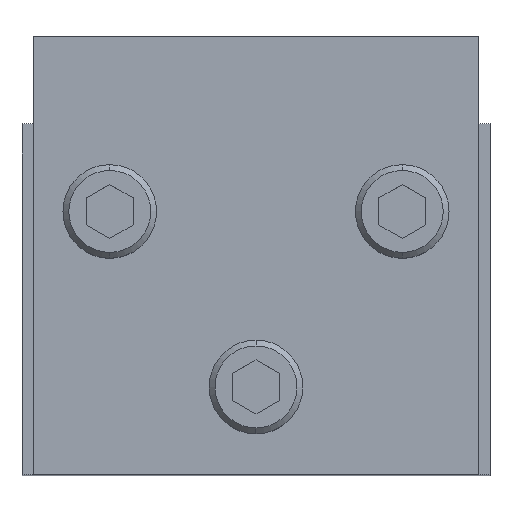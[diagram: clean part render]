
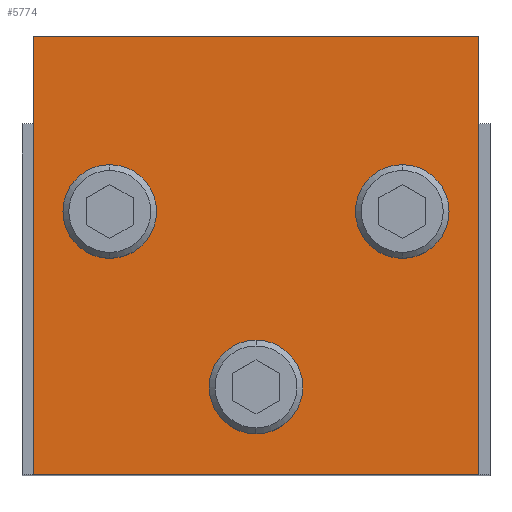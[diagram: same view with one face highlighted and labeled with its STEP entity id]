
A CAD part, top view. The second image highlights one B-rep face of the part: STEP entity #5774.
In plain terms, the highlighted planar face has unit normal (0, 0, 1).
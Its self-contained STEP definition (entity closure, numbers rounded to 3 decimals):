
#5549=VERTEX_POINT(' ',#5550);
#5550=CARTESIAN_POINT('',(38.,75.,110.));
#5551=VERTEX_POINT(' ',#5552);
#5552=CARTESIAN_POINT('',(-38.,75.,110.));
#5553=VERTEX_POINT(' ',#5554);
#5554=CARTESIAN_POINT('',(-38.,0.,110.));
#5555=VERTEX_POINT(' ',#5556);
#5556=CARTESIAN_POINT('',(38.,0.,110.));
#5557=VERTEX_POINT(' ',#5558);
#5558=CARTESIAN_POINT('',(0.,20.5,110.));
#5559=VERTEX_POINT(' ',#5560);
#5560=CARTESIAN_POINT('',(0.,9.5,110.));
#5561=VERTEX_POINT(' ',#5562);
#5562=CARTESIAN_POINT('',(-25.,50.5,110.));
#5563=VERTEX_POINT(' ',#5564);
#5564=CARTESIAN_POINT('',(-25.,39.5,110.));
#5565=VERTEX_POINT(' ',#5566);
#5566=CARTESIAN_POINT('',(25.,50.5,110.));
#5567=VERTEX_POINT(' ',#5568);
#5568=CARTESIAN_POINT('',(25.,39.5,110.));
#5589=LINE('',#5590,#5591);
#5590=CARTESIAN_POINT('',(38.,75.,110.));
#5591=VECTOR('',#5592,1.);
#5592=DIRECTION('',(-1.,0.,0.));
#5593=EDGE_CURVE(' ',#5549,#5551,#5589,.T.);
#5594=LINE('',#5595,#5596);
#5595=CARTESIAN_POINT('',(-38.,75.,110.));
#5596=VECTOR('',#5597,1.);
#5597=DIRECTION('',(0.,-1.,0.));
#5598=EDGE_CURVE(' ',#5551,#5553,#5594,.T.);
#5599=LINE('',#5600,#5601);
#5600=CARTESIAN_POINT('',(-38.,0.,110.));
#5601=VECTOR('',#5602,1.);
#5602=DIRECTION('',(1.,0.,0.));
#5603=EDGE_CURVE(' ',#5553,#5555,#5599,.T.);
#5604=LINE('',#5605,#5606);
#5605=CARTESIAN_POINT('',(38.,0.,110.));
#5606=VECTOR('',#5607,1.);
#5607=DIRECTION('',(0.,1.,0.));
#5608=EDGE_CURVE(' ',#5555,#5549,#5604,.T.);
#5609=CIRCLE('',#5610,5.5);
#5610=AXIS2_PLACEMENT_3D('',#5611,#5612,#5613);
#5611=CARTESIAN_POINT('',(0.,15.,110.));
#5612=DIRECTION('',(0.,0.,-1.));
#5613=DIRECTION('',(-1.,0.,0.));
#5614=EDGE_CURVE(' ',#5557,#5559,#5609,.T.);
#5615=CIRCLE('',#5616,5.5);
#5616=AXIS2_PLACEMENT_3D('',#5617,#5618,#5619);
#5617=CARTESIAN_POINT('',(0.,15.,110.));
#5618=DIRECTION('',(0.,0.,-1.));
#5619=DIRECTION('',(1.,0.,0.));
#5620=EDGE_CURVE(' ',#5559,#5557,#5615,.T.);
#5621=CIRCLE('',#5622,5.5);
#5622=AXIS2_PLACEMENT_3D('',#5623,#5624,#5625);
#5623=CARTESIAN_POINT('',(-25.,45.,110.));
#5624=DIRECTION('',(0.,0.,-1.));
#5625=DIRECTION('',(-1.,0.,0.));
#5626=EDGE_CURVE(' ',#5561,#5563,#5621,.T.);
#5627=CIRCLE('',#5628,5.5);
#5628=AXIS2_PLACEMENT_3D('',#5629,#5630,#5631);
#5629=CARTESIAN_POINT('',(-25.,45.,110.));
#5630=DIRECTION('',(0.,0.,-1.));
#5631=DIRECTION('',(1.,0.,0.));
#5632=EDGE_CURVE(' ',#5563,#5561,#5627,.T.);
#5633=CIRCLE('',#5634,5.5);
#5634=AXIS2_PLACEMENT_3D('',#5635,#5636,#5637);
#5635=CARTESIAN_POINT('',(25.,45.,110.));
#5636=DIRECTION('',(0.,0.,-1.));
#5637=DIRECTION('',(-1.,0.,0.));
#5638=EDGE_CURVE(' ',#5565,#5567,#5633,.T.);
#5639=CIRCLE('',#5640,5.5);
#5640=AXIS2_PLACEMENT_3D('',#5641,#5642,#5643);
#5641=CARTESIAN_POINT('',(25.,45.,110.));
#5642=DIRECTION('',(0.,0.,-1.));
#5643=DIRECTION('',(1.,0.,0.));
#5644=EDGE_CURVE(' ',#5567,#5565,#5639,.T.);
#5751=ORIENTED_EDGE('',*,*,#5593,.T.);
#5752=ORIENTED_EDGE('',*,*,#5598,.T.);
#5753=ORIENTED_EDGE('',*,*,#5603,.T.);
#5754=ORIENTED_EDGE('',*,*,#5608,.T.);
#5755=EDGE_LOOP('',(#5751,#5752,#5753,#5754));
#5756=FACE_OUTER_BOUND('',#5755,.T.);
#5757=ORIENTED_EDGE('',*,*,#5614,.T.);
#5758=ORIENTED_EDGE('',*,*,#5620,.T.);
#5759=EDGE_LOOP('',(#5757,#5758));
#5760=FACE_BOUND('',#5759,.T.);
#5761=ORIENTED_EDGE('',*,*,#5626,.T.);
#5762=ORIENTED_EDGE('',*,*,#5632,.T.);
#5763=EDGE_LOOP('',(#5761,#5762));
#5764=FACE_BOUND('',#5763,.T.);
#5765=ORIENTED_EDGE('',*,*,#5638,.T.);
#5766=ORIENTED_EDGE('',*,*,#5644,.T.);
#5767=EDGE_LOOP('',(#5765,#5766));
#5768=FACE_BOUND('',#5767,.T.);
#5769=PLANE('',#5770);
#5770=AXIS2_PLACEMENT_3D('',#5771,#5772,#5773);
#5771=CARTESIAN_POINT('',(38.,75.,110.));
#5772=DIRECTION('',(0.,0.,1.));
#5773=DIRECTION('',(1.,0.,0.));
#5774=ADVANCED_FACE('',(#5756,#5760,#5764,#5768),#5769,.T.);
